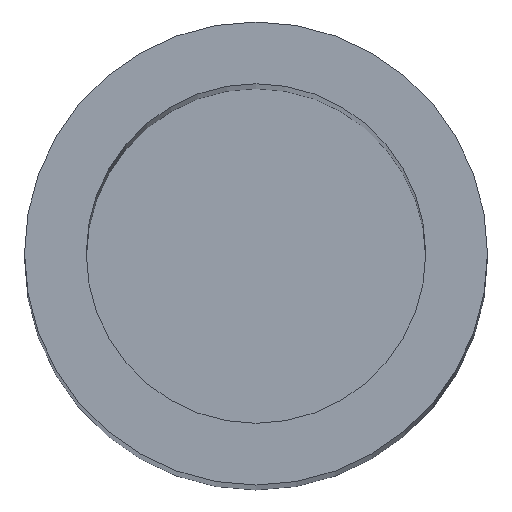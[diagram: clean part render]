
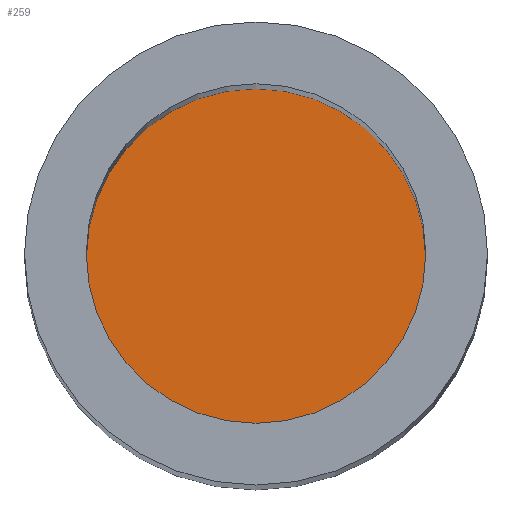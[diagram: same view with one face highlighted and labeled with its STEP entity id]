
A CAD part, top view. The second image highlights one B-rep face of the part: STEP entity #259.
In plain terms, the highlighted planar face has unit normal (0, 0, 1).
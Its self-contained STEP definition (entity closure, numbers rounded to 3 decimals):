
#189 = CYLINDRICAL_SURFACE('',#190,4.4);
#190 = AXIS2_PLACEMENT_3D('',#191,#192,#193);
#191 = CARTESIAN_POINT('',(0.,0.,2.));
#192 = DIRECTION('',(-0.,-0.,-1.));
#193 = DIRECTION('',(1.,0.,0.));
#208 = EDGE_CURVE('',#209,#209,#211,.T.);
#209 = VERTEX_POINT('',#210);
#210 = CARTESIAN_POINT('',(4.4,0.,2.));
#211 = SURFACE_CURVE('',#212,(#217,#224),.PCURVE_S1.);
#212 = CIRCLE('',#213,4.4);
#213 = AXIS2_PLACEMENT_3D('',#214,#215,#216);
#214 = CARTESIAN_POINT('',(0.,0.,2.));
#215 = DIRECTION('',(0.,0.,1.));
#216 = DIRECTION('',(1.,0.,0.));
#217 = PCURVE('',#189,#218);
#218 = DEFINITIONAL_REPRESENTATION('',(#219),#223);
#219 = LINE('',#220,#221);
#220 = CARTESIAN_POINT('',(-0.,0.));
#221 = VECTOR('',#222,1.);
#222 = DIRECTION('',(-1.,0.));
#223 = ( GEOMETRIC_REPRESENTATION_CONTEXT(2) 
PARAMETRIC_REPRESENTATION_CONTEXT() REPRESENTATION_CONTEXT('2D SPACE',''
  ) );
#224 = PCURVE('',#225,#230);
#225 = PLANE('',#226);
#226 = AXIS2_PLACEMENT_3D('',#227,#228,#229);
#227 = CARTESIAN_POINT('',(0.,0.,2.));
#228 = DIRECTION('',(0.,0.,1.));
#229 = DIRECTION('',(1.,0.,-0.));
#230 = DEFINITIONAL_REPRESENTATION('',(#231),#235);
#231 = CIRCLE('',#232,4.4);
#232 = AXIS2_PLACEMENT_2D('',#233,#234);
#233 = CARTESIAN_POINT('',(0.,0.));
#234 = DIRECTION('',(1.,0.));
#235 = ( GEOMETRIC_REPRESENTATION_CONTEXT(2) 
PARAMETRIC_REPRESENTATION_CONTEXT() REPRESENTATION_CONTEXT('2D SPACE',''
  ) );
#259 = ADVANCED_FACE('',(#260),#225,.T.);
#260 = FACE_BOUND('',#261,.T.);
#261 = EDGE_LOOP('',(#262));
#262 = ORIENTED_EDGE('',*,*,#208,.T.);
